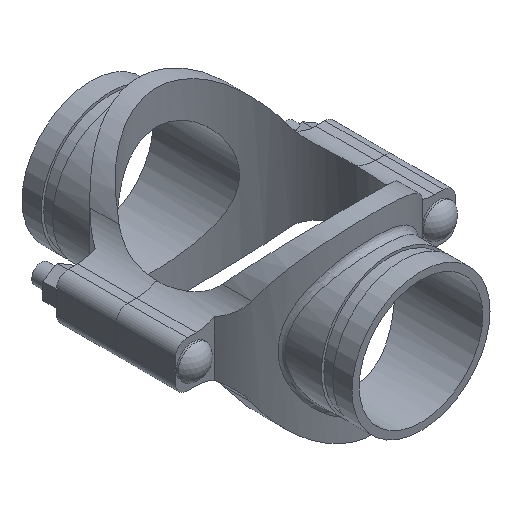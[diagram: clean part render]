
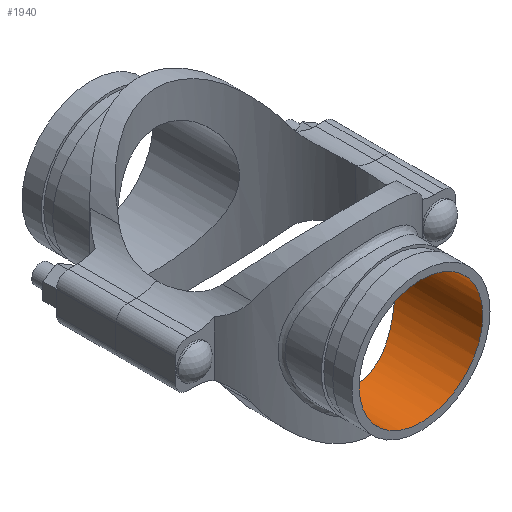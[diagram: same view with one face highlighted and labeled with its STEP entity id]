
A CAD part, isometric view. The second image highlights one B-rep face of the part: STEP entity #1940.
In plain terms, the highlighted cylindrical face has radius 51.197 mm (diameter 102.394 mm), a full revolution.
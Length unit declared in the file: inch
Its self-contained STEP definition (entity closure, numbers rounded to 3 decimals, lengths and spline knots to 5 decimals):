
#48=B_SPLINE_CURVE_WITH_KNOTS('',3,(#3948,#3949,#3950,#3951,#3952,#3953,
#3954,#3955,#3956,#3957,#3958,#3959,#3960,#3961,#3962,#3963,#3964,#3965,
#3966,#3967,#3968,#3969,#3970,#3971,#3972,#3973,#3974,#3975,#3976,#3977,
#3978,#3979,#3980,#3981,#3982,#3983,#3984,#3985,#3986,#3987,#3988,#3989,
#3990,#3991,#3992,#3993,#3994,#3995,#3996,#3997,#3998,#3999,#4000,#4001,
#4002,#4003,#4004,#4005,#4006,#4007,#4008,#4009,#4010,#4011,#4012,#4013),
 .UNSPECIFIED.,.T.,.F.,(4,2,2,2,2,2,2,2,2,2,2,2,2,2,2,2,2,2,2,2,2,2,2,2,
2,2,2,2,2,2,2,2,4),(0.,1.00125,2.0025,3.00375,
4.005,4.99863,5.99227,6.98591,7.97954,
8.97318,9.96682,10.96046,11.95409,12.95534,
13.95659,14.95784,15.95909,16.96034,17.96159,
18.96284,19.96408,20.95772,21.95136,22.945,
23.93863,24.93227,25.92591,26.91954,27.91318,
28.91443,29.91568,30.91693,31.91818),
 .UNSPECIFIED.);
#91=CYLINDRICAL_SURFACE('',#2169,2.01563);
#206=FACE_OUTER_BOUND('',#326,.T.);
#326=EDGE_LOOP('',(#1552,#1553,#1554,#1555));
#474=LINE('',#3947,#620);
#620=VECTOR('',#2620,2.01563);
#716=CIRCLE('',#2170,2.01563);
#877=VERTEX_POINT('',#3944);
#878=VERTEX_POINT('',#3946);
#1116=EDGE_CURVE('',#877,#877,#716,.T.);
#1117=EDGE_CURVE('',#877,#878,#474,.T.);
#1118=EDGE_CURVE('',#878,#878,#48,.T.);
#1552=ORIENTED_EDGE('',*,*,#1116,.F.);
#1553=ORIENTED_EDGE('',*,*,#1117,.T.);
#1554=ORIENTED_EDGE('',*,*,#1118,.F.);
#1555=ORIENTED_EDGE('',*,*,#1117,.F.);
#1940=ADVANCED_FACE('',(#206),#91,.F.);
#2169=AXIS2_PLACEMENT_3D('',#3943,#2616,#2617);
#2170=AXIS2_PLACEMENT_3D('',#3945,#2618,#2619);
#2616=DIRECTION('center_axis',(0.,-1.,0.));
#2617=DIRECTION('ref_axis',(-1.,0.,0.));
#2618=DIRECTION('center_axis',(0.,-1.,0.));
#2619=DIRECTION('ref_axis',(-1.,0.,0.));
#2620=DIRECTION('',(0.,-1.,0.));
#3943=CARTESIAN_POINT('Origin',(0.,5.38,0.));
#3944=CARTESIAN_POINT('',(2.01563,5.38,0.));
#3945=CARTESIAN_POINT('Origin',(0.,5.38,0.));
#3946=CARTESIAN_POINT('',(2.01563,2.54946,0.));
#3947=CARTESIAN_POINT('',(2.01563,5.38,0.));
#3948=CARTESIAN_POINT('Ctrl Pts',(2.01563,2.54946,0.));
#3949=CARTESIAN_POINT('Ctrl Pts',(2.01563,2.54946,-0.1314));
#3950=CARTESIAN_POINT('Ctrl Pts',(2.00259,2.55993,-0.2654));
#3951=CARTESIAN_POINT('Ctrl Pts',(1.94964,2.60049,-0.52889));
#3952=CARTESIAN_POINT('Ctrl Pts',(1.90975,2.63047,-0.6584));
#3953=CARTESIAN_POINT('Ctrl Pts',(1.80606,2.70271,-0.90485));
#3954=CARTESIAN_POINT('Ctrl Pts',(1.74218,2.74492,-1.02206));
#3955=CARTESIAN_POINT('Ctrl Pts',(1.59571,2.83257,-1.23835));
#3956=CARTESIAN_POINT('Ctrl Pts',(1.51309,2.87795,-1.33743));
#3957=CARTESIAN_POINT('Ctrl Pts',(1.3381,2.96334,-1.51243));
#3958=CARTESIAN_POINT('Ctrl Pts',(1.23936,3.00663,-1.59493));
#3959=CARTESIAN_POINT('Ctrl Pts',(1.02299,3.08696,-1.74164));
#3960=CARTESIAN_POINT('Ctrl Pts',(0.90535,3.12395,-1.80585));
#3961=CARTESIAN_POINT('Ctrl Pts',(0.65792,3.18526,-1.90995));
#3962=CARTESIAN_POINT('Ctrl Pts',(0.52788,3.20959,-1.94992));
#3963=CARTESIAN_POINT('Ctrl Pts',(0.26412,3.24197,-2.00277));
#3964=CARTESIAN_POINT('Ctrl Pts',(0.1304,3.25,-2.01563));
#3965=CARTESIAN_POINT('Ctrl Pts',(-0.1304,3.25,-2.01563));
#3966=CARTESIAN_POINT('Ctrl Pts',(-0.26412,3.24197,-2.00277));
#3967=CARTESIAN_POINT('Ctrl Pts',(-0.52788,3.20959,-1.94992));
#3968=CARTESIAN_POINT('Ctrl Pts',(-0.65792,3.18526,-1.90995));
#3969=CARTESIAN_POINT('Ctrl Pts',(-0.90535,3.12395,-1.80585));
#3970=CARTESIAN_POINT('Ctrl Pts',(-1.02299,3.08696,-1.74164));
#3971=CARTESIAN_POINT('Ctrl Pts',(-1.23936,3.00663,-1.59493));
#3972=CARTESIAN_POINT('Ctrl Pts',(-1.3381,2.96334,-1.51243));
#3973=CARTESIAN_POINT('Ctrl Pts',(-1.51309,2.87795,-1.33743));
#3974=CARTESIAN_POINT('Ctrl Pts',(-1.59571,2.83257,-1.23835));
#3975=CARTESIAN_POINT('Ctrl Pts',(-1.74218,2.74492,-1.02206));
#3976=CARTESIAN_POINT('Ctrl Pts',(-1.80606,2.70271,-0.90485));
#3977=CARTESIAN_POINT('Ctrl Pts',(-1.90975,2.63047,-0.6584));
#3978=CARTESIAN_POINT('Ctrl Pts',(-1.94964,2.60049,-0.52889));
#3979=CARTESIAN_POINT('Ctrl Pts',(-2.00259,2.55993,-0.2654));
#3980=CARTESIAN_POINT('Ctrl Pts',(-2.01563,2.54946,-0.1314));
#3981=CARTESIAN_POINT('Ctrl Pts',(-2.01563,2.54946,0.1314));
#3982=CARTESIAN_POINT('Ctrl Pts',(-2.00259,2.55993,0.2654));
#3983=CARTESIAN_POINT('Ctrl Pts',(-1.94964,2.60049,0.52889));
#3984=CARTESIAN_POINT('Ctrl Pts',(-1.90975,2.63047,0.6584));
#3985=CARTESIAN_POINT('Ctrl Pts',(-1.80606,2.70271,0.90485));
#3986=CARTESIAN_POINT('Ctrl Pts',(-1.74218,2.74492,1.02206));
#3987=CARTESIAN_POINT('Ctrl Pts',(-1.59571,2.83257,1.23835));
#3988=CARTESIAN_POINT('Ctrl Pts',(-1.51309,2.87795,1.33743));
#3989=CARTESIAN_POINT('Ctrl Pts',(-1.3381,2.96334,1.51243));
#3990=CARTESIAN_POINT('Ctrl Pts',(-1.23936,3.00663,1.59493));
#3991=CARTESIAN_POINT('Ctrl Pts',(-1.02299,3.08696,1.74164));
#3992=CARTESIAN_POINT('Ctrl Pts',(-0.90535,3.12395,1.80585));
#3993=CARTESIAN_POINT('Ctrl Pts',(-0.65792,3.18526,1.90995));
#3994=CARTESIAN_POINT('Ctrl Pts',(-0.52788,3.20959,1.94992));
#3995=CARTESIAN_POINT('Ctrl Pts',(-0.26412,3.24197,2.00277));
#3996=CARTESIAN_POINT('Ctrl Pts',(-0.1304,3.25,2.01563));
#3997=CARTESIAN_POINT('Ctrl Pts',(0.1304,3.25,2.01563));
#3998=CARTESIAN_POINT('Ctrl Pts',(0.26412,3.24197,2.00277));
#3999=CARTESIAN_POINT('Ctrl Pts',(0.52788,3.20959,1.94992));
#4000=CARTESIAN_POINT('Ctrl Pts',(0.65792,3.18526,1.90995));
#4001=CARTESIAN_POINT('Ctrl Pts',(0.90535,3.12395,1.80585));
#4002=CARTESIAN_POINT('Ctrl Pts',(1.02299,3.08696,1.74164));
#4003=CARTESIAN_POINT('Ctrl Pts',(1.23936,3.00663,1.59493));
#4004=CARTESIAN_POINT('Ctrl Pts',(1.3381,2.96334,1.51243));
#4005=CARTESIAN_POINT('Ctrl Pts',(1.51309,2.87795,1.33743));
#4006=CARTESIAN_POINT('Ctrl Pts',(1.59571,2.83257,1.23835));
#4007=CARTESIAN_POINT('Ctrl Pts',(1.74218,2.74492,1.02206));
#4008=CARTESIAN_POINT('Ctrl Pts',(1.80606,2.70271,0.90485));
#4009=CARTESIAN_POINT('Ctrl Pts',(1.90975,2.63047,0.6584));
#4010=CARTESIAN_POINT('Ctrl Pts',(1.94964,2.60049,0.52889));
#4011=CARTESIAN_POINT('Ctrl Pts',(2.00259,2.55993,0.2654));
#4012=CARTESIAN_POINT('Ctrl Pts',(2.01563,2.54946,0.1314));
#4013=CARTESIAN_POINT('Ctrl Pts',(2.01563,2.54946,0.));
